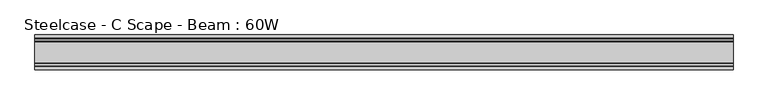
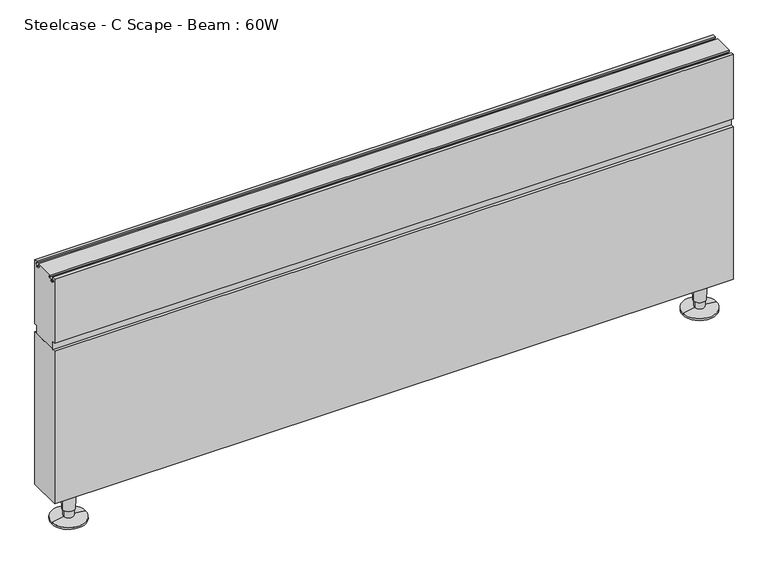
"""IFC4 building model written with IfcOpenShell, lengths in millimetres: furniture geometry, Steelcase - C Scape - Beam : 60W."""

from ifc_helpers import new_model, si_unit, frame, origin, place, context, project, spatial, polyline, circle_curve, outline, extrude, source, transform, mapped, element, save
from ifc_brep_helpers import plane_surface, cylinder_surface, revolved_surface, advanced_brep


def steelcase_c_scape_beam_60w_fd53535f(model_context):
    return source(origin(), model_context, "Body", "SolidModel", [
        advanced_brep(
        [(1484.2377849, -38.1, 25.4), (1456.8993351, -38.1, 25.4), (1455.12536, -38.1, 76.2), (1486.01176, -38.1, 76.2), (1481.5056589, -38.1, 25.4), (1459.6314611, -38.1, 25.4), (1481.5056589, -38.1, 8.099626), (1459.6314611, -38.1, 8.099626), (1508.6793277, -38.1, 4.2806159), (1432.4577923, -38.1, 4.2806159), (1508.6793277, -38.1, 0.0), (1432.4577923, -38.1, 0.0), (1470.56856, -38.1, 0.0), (1470.56856, -38.1, 76.2)],
        [
            (0, 1, circle_curve(frame((1470.56856, -38.1, 25.4), z_axis=(0.0, 0.0, 1.0), x_axis=(-1.0, 0.0, 0.0)), 13.6692249)),
            (1, 2),
            (2, 3, circle_curve(frame((1470.56856, -38.1, 76.2), z_axis=(0.0, 0.0, -1.0), x_axis=(-1.0, 0.0, 0.0)), 15.4432)),
            (3, 0),
            (1, 0, circle_curve(frame((1470.56856, -38.1, 25.4), z_axis=(0.0, 0.0, 1.0), x_axis=(-1.0, 0.0, 0.0)), 13.6692249)),
            (3, 2, circle_curve(frame((1470.56856, -38.1, 76.2), z_axis=(0.0, 0.0, -1.0), x_axis=(-1.0, 0.0, 0.0)), 15.4432)),
            (4, 5, circle_curve(frame((1470.56856, -38.1, 25.4), z_axis=(0.0, 0.0, 1.0), x_axis=(-1.0, 0.0, 0.0)), 10.9370989)),
            (5, 1),
            (0, 4),
            (5, 4, circle_curve(frame((1470.56856, -38.1, 25.4), z_axis=(0.0, 0.0, 1.0), x_axis=(-1.0, 0.0, 0.0)), 10.9370989)),
            (6, 7, circle_curve(frame((1470.56856, -38.1, 8.099626), z_axis=(0.0, 0.0, 1.0), x_axis=(-1.0, 0.0, 0.0)), 10.9370989)),
            (7, 5),
            (4, 6),
            (7, 6, circle_curve(frame((1470.56856, -38.1, 8.099626), z_axis=(0.0, 0.0, 1.0), x_axis=(-1.0, 0.0, 0.0)), 10.9370989)),
            (8, 9, circle_curve(frame((1470.56856, -38.1, 4.2806159), z_axis=(0.0, 0.0, 1.0), x_axis=(-1.0, 0.0, 0.0)), 38.1107677)),
            (9, 7),
            (6, 8),
            (9, 8, circle_curve(frame((1470.56856, -38.1, 4.2806159), z_axis=(0.0, 0.0, 1.0), x_axis=(-1.0, 0.0, 0.0)), 38.1107677)),
            (10, 11, circle_curve(frame((1470.56856, -38.1, 0.0), z_axis=(0.0, 0.0, 1.0), x_axis=(-1.0, 0.0, 0.0)), 38.1107677)),
            (11, 9),
            (8, 10),
            (11, 10, circle_curve(frame((1470.56856, -38.1, 0.0), z_axis=(0.0, 0.0, 1.0), x_axis=(-1.0, 0.0, 0.0)), 38.1107677)),
            (12, 11),
            (10, 12),
            (2, 13),
            (13, 3),
        ],
        [
            revolved_surface(polyline([(1455.12536, -38.1, 76.2), (1456.8993351, -38.1, 25.4)]), (1470.56856, -38.1, 76.2), (0.0, 0.0, -1.0)),
            plane_surface(frame((1470.56856, -38.1, 25.4), z_axis=(0.0, 0.0, -1.0), x_axis=(-1.0, 0.0, 0.0))),
            cylinder_surface(frame((1470.56856, -38.1, 76.2), z_axis=(0.0, 0.0, -1.0), x_axis=(-1.0, 0.0, 0.0)), 10.9370989),
            revolved_surface(polyline([(1459.6314611, -38.1, 8.099626), (1432.4577923, -38.1, 4.2806159)]), (1470.56856, -38.1, 76.2), (0.0, 0.0, -1.0)),
            cylinder_surface(frame((1470.56856, -38.1, 76.2), z_axis=(0.0, 0.0, -1.0), x_axis=(-1.0, 0.0, 0.0)), 38.1107677),
            plane_surface(frame((1470.56856, -38.1, 0.0), z_axis=(0.0, 0.0, -1.0), x_axis=(-1.0, 0.0, 0.0))),
            plane_surface(frame((1470.56856, -38.1, 76.2), z_axis=(0.0, 0.0, 1.0), x_axis=(-1.0, 0.0, 0.0))),
        ],
        [
            (0, [[1, 2, 3, 4]]),
            (0, [[5, -4, 6, -2]]),
            (1, [[7, 8, -1, 9]]),
            (1, [[10, -9, -5, -8]]),
            (2, [[11, 12, -7, 13]]),
            (2, [[14, -13, -10, -12]]),
            (3, [[15, 16, -11, 17]]),
            (3, [[18, -17, -14, -16]]),
            (4, [[19, 20, -15, 21]]),
            (4, [[22, -21, -18, -20]]),
            (5, [[23, -19, 24]]),
            (5, [[-24, -22, -23]]),
            (6, [[-3, 25, 26]]),
            (6, [[-6, -26, -25]]),
        ],
    ),
        advanced_brep(
        [(67.1006649, -38.1, 25.4), (39.7622151, -38.1, 25.4), (37.98824, -38.1, 76.2), (68.87464, -38.1, 76.2), (64.3685389, -38.1, 25.4), (42.4943411, -38.1, 25.4), (64.3685389, -38.1, 8.099626), (42.4943411, -38.1, 8.099626), (91.5422077, -38.1, 4.2806159), (15.3206723, -38.1, 4.2806159), (91.5422077, -38.1, 0.0), (15.3206723, -38.1, 0.0), (53.43144, -38.1, 0.0), (53.43144, -38.1, 76.2)],
        [
            (0, 1, circle_curve(frame((53.43144, -38.1, 25.4), z_axis=(0.0, 0.0, 1.0), x_axis=(-1.0, 0.0, 0.0)), 13.6692249)),
            (1, 2),
            (2, 3, circle_curve(frame((53.43144, -38.1, 76.2), z_axis=(0.0, 0.0, -1.0), x_axis=(-1.0, 0.0, 0.0)), 15.4432)),
            (3, 0),
            (1, 0, circle_curve(frame((53.43144, -38.1, 25.4), z_axis=(0.0, 0.0, 1.0), x_axis=(-1.0, 0.0, 0.0)), 13.6692249)),
            (3, 2, circle_curve(frame((53.43144, -38.1, 76.2), z_axis=(0.0, 0.0, -1.0), x_axis=(-1.0, 0.0, 0.0)), 15.4432)),
            (4, 5, circle_curve(frame((53.43144, -38.1, 25.4), z_axis=(0.0, 0.0, 1.0), x_axis=(-1.0, 0.0, 0.0)), 10.9370989)),
            (5, 1),
            (0, 4),
            (5, 4, circle_curve(frame((53.43144, -38.1, 25.4), z_axis=(0.0, 0.0, 1.0), x_axis=(-1.0, 0.0, 0.0)), 10.9370989)),
            (6, 7, circle_curve(frame((53.43144, -38.1, 8.099626), z_axis=(0.0, 0.0, 1.0), x_axis=(-1.0, 0.0, 0.0)), 10.9370989)),
            (7, 5),
            (4, 6),
            (7, 6, circle_curve(frame((53.43144, -38.1, 8.099626), z_axis=(0.0, 0.0, 1.0), x_axis=(-1.0, 0.0, 0.0)), 10.9370989)),
            (8, 9, circle_curve(frame((53.43144, -38.1, 4.2806159), z_axis=(0.0, 0.0, 1.0), x_axis=(-1.0, 0.0, 0.0)), 38.1107677)),
            (9, 7),
            (6, 8),
            (9, 8, circle_curve(frame((53.43144, -38.1, 4.2806159), z_axis=(0.0, 0.0, 1.0), x_axis=(-1.0, 0.0, 0.0)), 38.1107677)),
            (10, 11, circle_curve(frame((53.43144, -38.1, 0.0), z_axis=(0.0, 0.0, 1.0), x_axis=(-1.0, 0.0, 0.0)), 38.1107677)),
            (11, 9),
            (8, 10),
            (11, 10, circle_curve(frame((53.43144, -38.1, 0.0), z_axis=(0.0, 0.0, 1.0), x_axis=(-1.0, 0.0, 0.0)), 38.1107677)),
            (12, 11),
            (10, 12),
            (2, 13),
            (13, 3),
        ],
        [
            revolved_surface(polyline([(37.98824, -38.1, 76.2), (39.7622151, -38.1, 25.4)]), (53.43144, -38.1, 76.2), (0.0, 0.0, -1.0)),
            plane_surface(frame((53.43144, -38.1, 25.4), z_axis=(0.0, 0.0, -1.0), x_axis=(-1.0, 0.0, 0.0))),
            cylinder_surface(frame((53.43144, -38.1, 76.2), z_axis=(0.0, 0.0, -1.0), x_axis=(-1.0, 0.0, 0.0)), 10.9370989),
            revolved_surface(polyline([(42.4943411, -38.1, 8.099626), (15.3206723, -38.1, 4.2806159)]), (53.43144, -38.1, 76.2), (0.0, 0.0, -1.0)),
            cylinder_surface(frame((53.43144, -38.1, 76.2), z_axis=(0.0, 0.0, -1.0), x_axis=(-1.0, 0.0, 0.0)), 38.1107677),
            plane_surface(frame((53.43144, -38.1, 0.0), z_axis=(0.0, 0.0, -1.0), x_axis=(-1.0, 0.0, 0.0))),
            plane_surface(frame((53.43144, -38.1, 76.2), z_axis=(0.0, 0.0, 1.0), x_axis=(-1.0, 0.0, 0.0))),
        ],
        [
            (0, [[1, 2, 3, 4]]),
            (0, [[5, -4, 6, -2]]),
            (1, [[7, 8, -1, 9]]),
            (1, [[10, -9, -5, -8]]),
            (2, [[11, 12, -7, 13]]),
            (2, [[14, -13, -10, -12]]),
            (3, [[15, 16, -11, 17]]),
            (3, [[18, -17, -14, -16]]),
            (4, [[19, 20, -15, 21]]),
            (4, [[22, -21, -18, -20]]),
            (5, [[23, -19, 24]]),
            (5, [[-24, -22, -23]]),
            (6, [[-3, 25, 26]]),
            (6, [[-6, -26, -25]]),
        ],
    ),
        extrude(outline(polyline([(1524.0, 0.0), (1524.0, -76.2), (0.0, -76.2), (0.0, 0.0), (1524.0, 0.0)])), frame((0.0, 0.0, 76.2), z_axis=(0.0, 0.0, 1.0), x_axis=(1.0, 0.0, 0.0)), (0.0, 0.0, 1.0), 361.95),
        extrude(outline(polyline([(-60.3249516, 609.6), (-15.8749758, 609.6), (-15.8749758, 605.7899855), (-19.6849903, 605.7899855), (-19.6849903, 601.9800073), (-15.3670126, 599.4869908), (-14.2747828, 599.4869908), (-14.2747828, 597.1539937), (-7.924807, 597.1539937), (-7.924807, 599.4435342), (-6.8325771, 599.4435342), (-2.5399612, 601.9800073), (-2.5399612, 605.7899855), (-6.3499758, 605.7899855), (-6.3499758, 609.6), (0.0, 609.6), (0.0, 457.2), (-6.3499758, 457.2), (-6.3499758, 438.15), (-69.8499516, 438.15), (-69.8499516, 457.2), (-76.2, 457.2), (-76.2, 609.6), (-69.8499516, 609.6), (-69.8499516, 605.7899855), (-73.6599661, 605.7899855), (-73.6599661, 601.9800073), (-69.3419884, 599.4869908), (-68.2497585, 599.4869908), (-68.2497585, 597.1539937), (-61.8997828, 597.1539937), (-61.8997828, 599.4435342), (-60.8075529, 599.4435342), (-56.514937, 601.9800073), (-56.514937, 605.7899855), (-60.3249516, 605.7899855), (-60.3249516, 609.6)])), frame((0.0, 0.0, 0.0), z_axis=(1.0, 0.0, 0.0), x_axis=(0.0, 1.0, 0.0)), (0.0, 0.0, 1.0), 1524.0),
    ])


if __name__ == "__main__":
    model = new_model("IFC4")
    model_context = context("Model", 3, world=origin())
    ifc_project = project(units=[si_unit("LENGTHUNIT", "METRE", prefix="MILLI")], contexts=[model_context])
    site = spatial("IfcSite", under=ifc_project)
    building = spatial("IfcBuilding", under=site)
    placement = place(None, origin())
    steelcase_c_scape_beam_60w_shape = steelcase_c_scape_beam_60w_fd53535f(model_context)
    element("IfcFurniture", 1, ObjectType="Steelcase - C Scape - Beam : 60W", at=placement, inside=building, context=model_context, shape_type="MappedRepresentation", body=[
        mapped(steelcase_c_scape_beam_60w_shape, transform((0.0, 0.0, 0.0), x_axis=(1.0, 0.0, 0.0), y_axis=(0.0, 1.0, 0.0), z_axis=(0.0, 0.0, 1.0))),
    ])
    save(model, "model.ifc")
